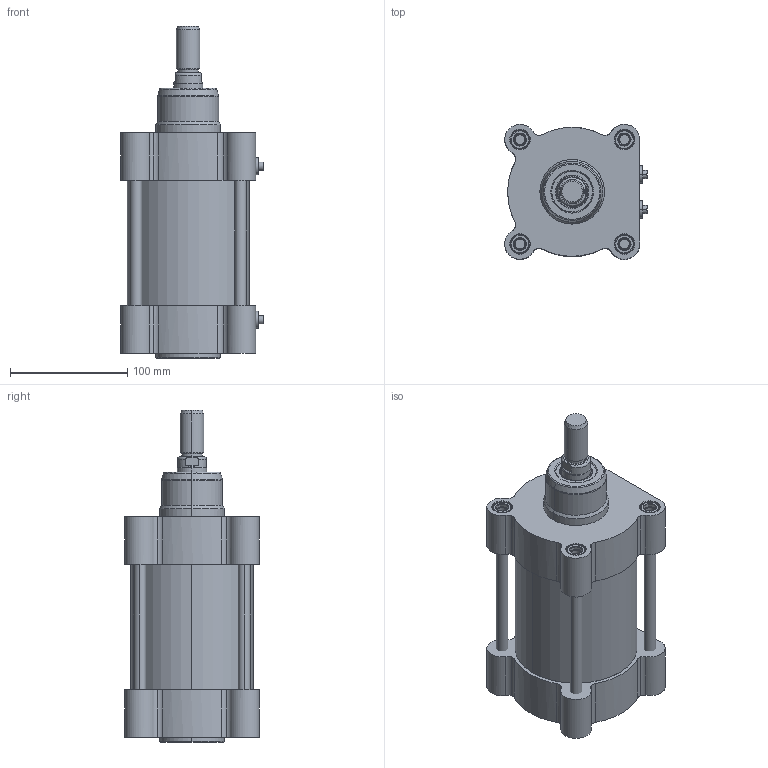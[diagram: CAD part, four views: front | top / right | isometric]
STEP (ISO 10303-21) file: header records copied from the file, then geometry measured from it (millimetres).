
FILE_DESCRIPTION (( 'STEP AP203' ), '1' );
FILE_NAME ('CTMI100-50.STEP', '2020-03-26T20:01:41', ( '' ), ( '' ), 'SwSTEP 2.0', 'SolidWorks 2019', '' );
FILE_SCHEMA (( 'CONFIG_CONTROL_DESIGN' ));
Length unit declared in the file: millimetre
Products named in the file (1): CTMI100-50
Bounding box: 121.48 x 115 x 283 mm (x, y, z)
Surface area: 242583.1 mm2 (no closed solid volume)
Topology: 0 solids, 20 shells, 706 faces, 1641 edges, 1016 vertices
Faces by surface type: cone 216, cylinder 201, plane 193, torus 80, bspline 16
Entity records: 32585 total; most frequent: CARTESIAN_POINT 18829, ORIENTED_EDGE 3244, DIRECTION 2039, EDGE_CURVE 1641, B_SPLINE_CURVE_WITH_KNOTS 1097, VERTEX_POINT 1016, AXIS2_PLACEMENT_3D 855, EDGE_LOOP 773
